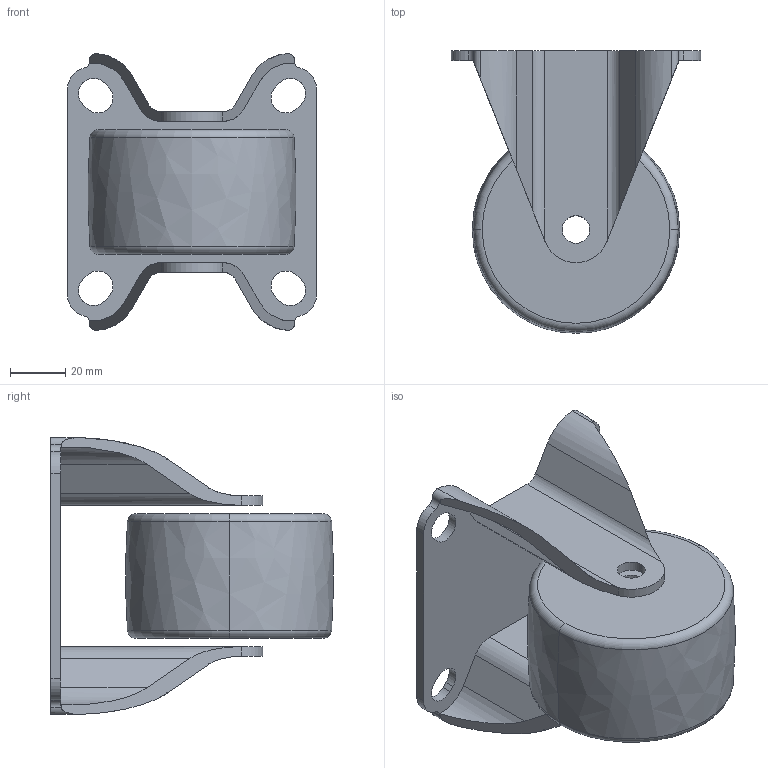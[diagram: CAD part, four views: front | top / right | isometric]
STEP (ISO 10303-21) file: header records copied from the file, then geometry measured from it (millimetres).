
FILE_DESCRIPTION((''),'2;1');
FILE_NAME('M45303_ASM','2024-01-23T',('Lenovo'),(''),'PRO/ENGINEER BY PARAMETRIC TECHNOLOGY CORPORATION, 2010280','PRO/ENGINEER BY PARAMETRIC TECHNOLOGY CORPORATION, 2010280','');
FILE_SCHEMA(('CONFIG_CONTROL_DESIGN'));
Length unit declared in the file: millimetre
Products named in the file (3): M453-301; M453-986A; M45303_ASM
Assembly tree (2 placements, depth 2):
  M45303_ASM
    M453-301
    M453-986A
Bounding box: 90 x 101.93 x 99.91 mm (x, y, z)
Volume: 241344.4 mm3; surface area: 52131.6 mm2
Topology: 2 solids, 2 shells, 80 faces, 220 edges, 144 vertices
Faces by surface type: cylinder 44, plane 30, torus 4, bspline 2
Entity records: 2832 total; most frequent: CARTESIAN_POINT 659, DIRECTION 444, ORIENTED_EDGE 440, EDGE_CURVE 220, AXIS2_PLACEMENT_3D 165, VERTEX_POINT 144, VECTOR 114, LINE 114
